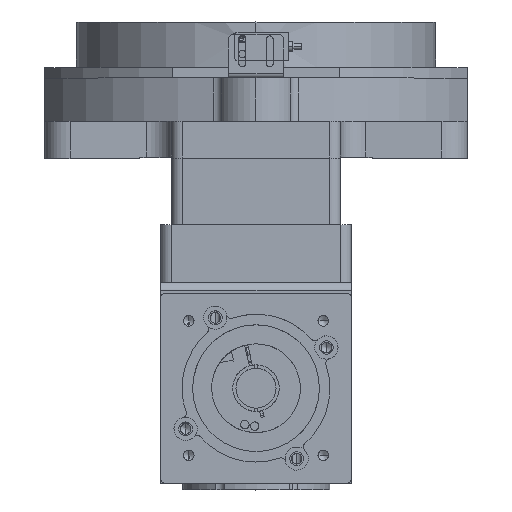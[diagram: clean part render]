
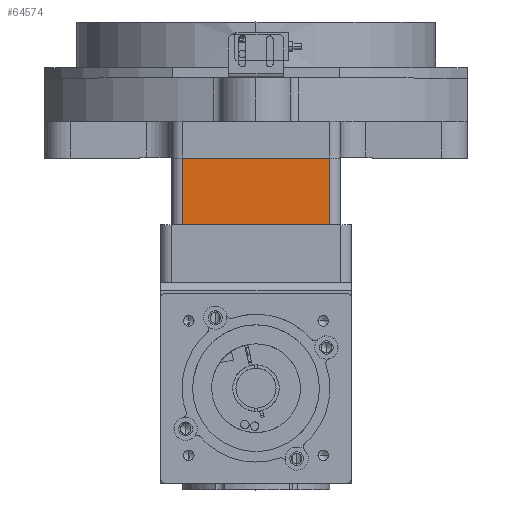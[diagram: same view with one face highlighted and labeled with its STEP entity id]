
A CAD part, top view. The second image highlights one B-rep face of the part: STEP entity #64574.
In plain terms, the highlighted planar face has unit normal (0, 0, 1).
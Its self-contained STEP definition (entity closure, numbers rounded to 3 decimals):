
#63942 = PLANE('',#63943);
#63943 = AXIS2_PLACEMENT_3D('',#63944,#63945,#63946);
#63944 = CARTESIAN_POINT('',(-75.36,-32.246,100.));
#63945 = DIRECTION('',(0.,-1.,0.));
#63946 = DIRECTION('',(0.,0.,-1.));
#64023 = PLANE('',#64024);
#64024 = AXIS2_PLACEMENT_3D('',#64025,#64026,#64027);
#64025 = CARTESIAN_POINT('',(-20.36,-0.746,167.));
#64026 = DIRECTION('',(0.,-1.,0.));
#64027 = DIRECTION('',(0.,0.,-1.));
#64133 = VERTEX_POINT('',#64134);
#64134 = CARTESIAN_POINT('',(-110.36,-0.746,242.5));
#64149 = CYLINDRICAL_SURFACE('',#64150,5.);
#64150 = AXIS2_PLACEMENT_3D('',#64151,#64152,#64153);
#64151 = CARTESIAN_POINT('',(-110.36,42.254,237.5));
#64152 = DIRECTION('',(0.,-1.,0.));
#64153 = DIRECTION('',(0.,0.,-1.));
#64161 = EDGE_CURVE('',#64162,#64133,#64164,.T.);
#64162 = VERTEX_POINT('',#64163);
#64163 = CARTESIAN_POINT('',(-40.36,-0.746,242.5));
#64164 = SURFACE_CURVE('',#64165,(#64169,#64176),.PCURVE_S1.);
#64165 = LINE('',#64166,#64167);
#64166 = CARTESIAN_POINT('',(-20.36,-0.746,242.5));
#64167 = VECTOR('',#64168,1.);
#64168 = DIRECTION('',(-1.,0.,0.));
#64169 = PCURVE('',#64023,#64170);
#64170 = DEFINITIONAL_REPRESENTATION('',(#64171),#64175);
#64171 = LINE('',#64172,#64173);
#64172 = CARTESIAN_POINT('',(-75.5,0.));
#64173 = VECTOR('',#64174,1.);
#64174 = DIRECTION('',(0.,-1.));
#64175 = ( GEOMETRIC_REPRESENTATION_CONTEXT(2) 
PARAMETRIC_REPRESENTATION_CONTEXT() REPRESENTATION_CONTEXT('2D SPACE',''
  ) );
#64176 = PCURVE('',#64177,#64182);
#64177 = PLANE('',#64178);
#64178 = AXIS2_PLACEMENT_3D('',#64179,#64180,#64181);
#64179 = CARTESIAN_POINT('',(-110.36,42.254,242.5));
#64180 = DIRECTION('',(0.,0.,-1.));
#64181 = DIRECTION('',(0.,1.,0.));
#64182 = DEFINITIONAL_REPRESENTATION('',(#64183),#64187);
#64183 = LINE('',#64184,#64185);
#64184 = CARTESIAN_POINT('',(-43.,90.));
#64185 = VECTOR('',#64186,1.);
#64186 = DIRECTION('',(0.,-1.));
#64187 = ( GEOMETRIC_REPRESENTATION_CONTEXT(2) 
PARAMETRIC_REPRESENTATION_CONTEXT() REPRESENTATION_CONTEXT('2D SPACE',''
  ) );
#64206 = CYLINDRICAL_SURFACE('',#64207,5.);
#64207 = AXIS2_PLACEMENT_3D('',#64208,#64209,#64210);
#64208 = CARTESIAN_POINT('',(-40.36,42.254,237.5));
#64209 = DIRECTION('',(0.,-1.,0.));
#64210 = DIRECTION('',(0.,0.,-1.));
#64524 = EDGE_CURVE('',#64525,#64133,#64527,.T.);
#64525 = VERTEX_POINT('',#64526);
#64526 = CARTESIAN_POINT('',(-110.36,-32.246,242.5));
#64527 = SURFACE_CURVE('',#64528,(#64532,#64539),.PCURVE_S1.);
#64528 = LINE('',#64529,#64530);
#64529 = CARTESIAN_POINT('',(-110.36,42.254,242.5));
#64530 = VECTOR('',#64531,1.);
#64531 = DIRECTION('',(0.,1.,0.));
#64532 = PCURVE('',#64149,#64533);
#64533 = DEFINITIONAL_REPRESENTATION('',(#64534),#64538);
#64534 = LINE('',#64535,#64536);
#64535 = CARTESIAN_POINT('',(3.142,0.));
#64536 = VECTOR('',#64537,1.);
#64537 = DIRECTION('',(0.,-1.));
#64538 = ( GEOMETRIC_REPRESENTATION_CONTEXT(2) 
PARAMETRIC_REPRESENTATION_CONTEXT() REPRESENTATION_CONTEXT('2D SPACE',''
  ) );
#64539 = PCURVE('',#64177,#64540);
#64540 = DEFINITIONAL_REPRESENTATION('',(#64541),#64545);
#64541 = LINE('',#64542,#64543);
#64542 = CARTESIAN_POINT('',(0.,0.));
#64543 = VECTOR('',#64544,1.);
#64544 = DIRECTION('',(1.,0.));
#64545 = ( GEOMETRIC_REPRESENTATION_CONTEXT(2) 
PARAMETRIC_REPRESENTATION_CONTEXT() REPRESENTATION_CONTEXT('2D SPACE',''
  ) );
#64574 = ADVANCED_FACE('',(#64575),#64177,.F.);
#64575 = FACE_BOUND('',#64576,.T.);
#64576 = EDGE_LOOP('',(#64577,#64600,#64601,#64602));
#64577 = ORIENTED_EDGE('',*,*,#64578,.F.);
#64578 = EDGE_CURVE('',#64162,#64579,#64581,.T.);
#64579 = VERTEX_POINT('',#64580);
#64580 = CARTESIAN_POINT('',(-40.36,-32.246,242.5));
#64581 = SURFACE_CURVE('',#64582,(#64586,#64593),.PCURVE_S1.);
#64582 = LINE('',#64583,#64584);
#64583 = CARTESIAN_POINT('',(-40.36,42.254,242.5));
#64584 = VECTOR('',#64585,1.);
#64585 = DIRECTION('',(-0.,-1.,0.));
#64586 = PCURVE('',#64177,#64587);
#64587 = DEFINITIONAL_REPRESENTATION('',(#64588),#64592);
#64588 = LINE('',#64589,#64590);
#64589 = CARTESIAN_POINT('',(0.,70.));
#64590 = VECTOR('',#64591,1.);
#64591 = DIRECTION('',(-1.,0.));
#64592 = ( GEOMETRIC_REPRESENTATION_CONTEXT(2) 
PARAMETRIC_REPRESENTATION_CONTEXT() REPRESENTATION_CONTEXT('2D SPACE',''
  ) );
#64593 = PCURVE('',#64206,#64594);
#64594 = DEFINITIONAL_REPRESENTATION('',(#64595),#64599);
#64595 = LINE('',#64596,#64597);
#64596 = CARTESIAN_POINT('',(3.142,0.));
#64597 = VECTOR('',#64598,1.);
#64598 = DIRECTION('',(0.,1.));
#64599 = ( GEOMETRIC_REPRESENTATION_CONTEXT(2) 
PARAMETRIC_REPRESENTATION_CONTEXT() REPRESENTATION_CONTEXT('2D SPACE',''
  ) );
#64600 = ORIENTED_EDGE('',*,*,#64161,.T.);
#64601 = ORIENTED_EDGE('',*,*,#64524,.F.);
#64602 = ORIENTED_EDGE('',*,*,#64603,.F.);
#64603 = EDGE_CURVE('',#64579,#64525,#64604,.T.);
#64604 = SURFACE_CURVE('',#64605,(#64609,#64616),.PCURVE_S1.);
#64605 = LINE('',#64606,#64607);
#64606 = CARTESIAN_POINT('',(-110.36,-32.246,242.5));
#64607 = VECTOR('',#64608,1.);
#64608 = DIRECTION('',(-1.,0.,0.));
#64609 = PCURVE('',#64177,#64610);
#64610 = DEFINITIONAL_REPRESENTATION('',(#64611),#64615);
#64611 = LINE('',#64612,#64613);
#64612 = CARTESIAN_POINT('',(-74.5,0.));
#64613 = VECTOR('',#64614,1.);
#64614 = DIRECTION('',(0.,-1.));
#64615 = ( GEOMETRIC_REPRESENTATION_CONTEXT(2) 
PARAMETRIC_REPRESENTATION_CONTEXT() REPRESENTATION_CONTEXT('2D SPACE',''
  ) );
#64616 = PCURVE('',#63942,#64617);
#64617 = DEFINITIONAL_REPRESENTATION('',(#64618),#64622);
#64618 = LINE('',#64619,#64620);
#64619 = CARTESIAN_POINT('',(-142.5,-35.));
#64620 = VECTOR('',#64621,1.);
#64621 = DIRECTION('',(0.,-1.));
#64622 = ( GEOMETRIC_REPRESENTATION_CONTEXT(2) 
PARAMETRIC_REPRESENTATION_CONTEXT() REPRESENTATION_CONTEXT('2D SPACE',''
  ) );
